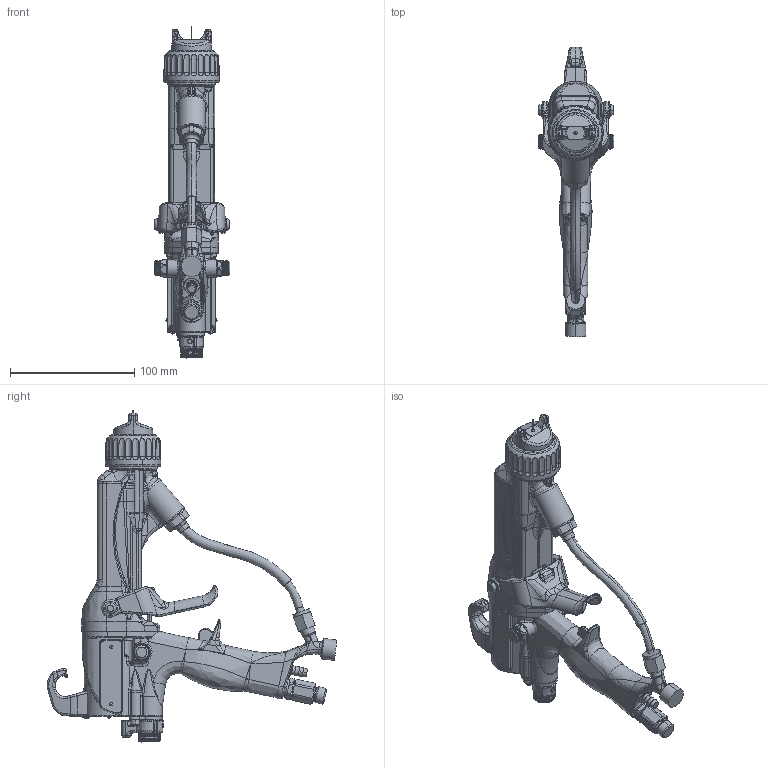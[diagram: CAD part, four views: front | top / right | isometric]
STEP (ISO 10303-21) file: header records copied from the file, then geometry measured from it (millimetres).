
FILE_DESCRIPTION((''),'2;1');
FILE_NAME('L85T75-EN-C_PRT','2020-05-18T18:56:36',('qusrh3'),(''),'CREO PARAMETRIC BY PTC INC, 2019030','CREO PARAMETRIC BY PTC INC, 2019030','');
FILE_SCHEMA(('CONFIG_CONTROL_DESIGN'));
Products named in the file (1): L85T75-EN-C_PRT
Bounding box: 61.15 x 233.22 x 267.21 mm (x, y, z)
Surface area: 93284.7 mm2 (no closed solid volume)
Topology: 0 solids, 61 shells, 2655 faces, 7334 edges, 4534 vertices
Faces by surface type: bspline 891, cylinder 674, plane 555, torus 241, cone 231, sphere 55, extrusion 8
Entity records: 135263 total; most frequent: CARTESIAN_POINT 76534, ORIENTED_EDGE 13335, DIRECTION 10253, EDGE_CURVE 7325, VERTEX_POINT 4534, AXIS2_PLACEMENT_3D 4168, B_SPLINE_CURVE_WITH_KNOTS 3012, EDGE_LOOP 2655
